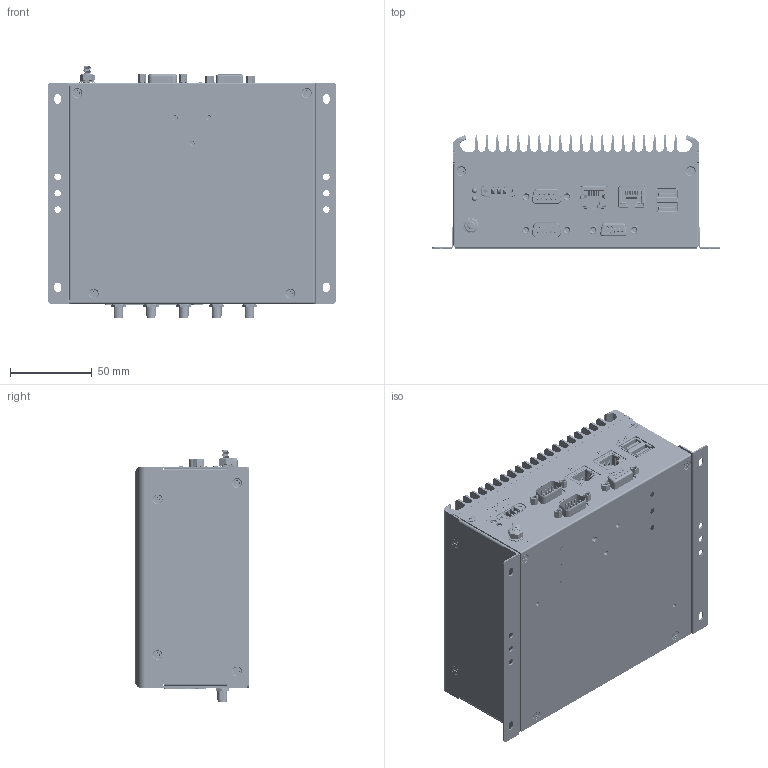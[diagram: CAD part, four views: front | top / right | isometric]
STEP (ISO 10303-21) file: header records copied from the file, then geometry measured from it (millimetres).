
FILE_DESCRIPTION((''),'2;1');
FILE_NAME('IBOX-600_CHASSIS','2024-07-22T08:30:24',('James Hsu'),(''),'CREO PARAMETRIC BY PTC INC, 2020184','CREO PARAMETRIC BY PTC INC, 2020184','');
FILE_SCHEMA(('CONFIG_CONTROL_DESIGN'));
Products named in the file (1): IBOX-600_CHASSIS
Bounding box: 176 x 69 x 153.5 mm (x, y, z)
Volume: 368146.8 mm3; surface area: 328018.3 mm2
Topology: 34 solids, 107 shells, 26795 faces, 75523 edges, 49532 vertices
Faces by surface type: plane 18238, cylinder 5856, extrusion 891, cone 825, bspline 675, torus 224, sphere 86
Entity records: 998714 total; most frequent: CARTESIAN_POINT 310258, ORIENTED_EDGE 150702, DIRECTION 130289, EDGE_CURVE 75393, VECTOR 58059, LINE 57168, VERTEX_POINT 49522, AXIS2_PLACEMENT_3D 36115
